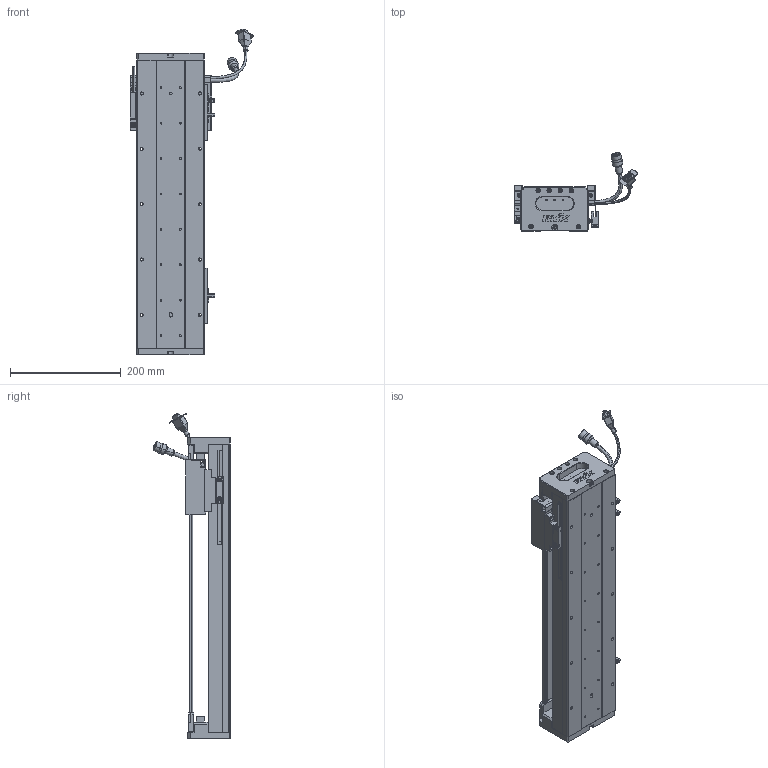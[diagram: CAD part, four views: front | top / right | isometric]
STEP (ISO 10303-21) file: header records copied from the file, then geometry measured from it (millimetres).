
FILE_DESCRIPTION (( 'STEP AP203' ), '1' );
FILE_NAME ('Z1-RY120D-1-L500-B-K.SLDASM_0350.step', '2021-05-17T03:44:40', ( '盈信电脑' ), ( '东莞市道滘镇水果街19号' ), 'SwSTEP 2.0', 'SolidWorks 2016', '' );
FILE_SCHEMA (( 'CONFIG_CONTROL_DESIGN' ));
Length unit declared in the file: millimetre
Products named in the file (37): 140蚥薯蝶輸; SCALE-Part-2; Z-RY120D詩湍奻揤裔; RY100FB-遵嫖萇覜茼え; HOLDER0; Z1-RY120-L500詩湍100mm遵_0350; Z1-RY120铝滑块（21款）; Z1-RY120-500-倰第菁釱_0350; SCREW-M1.7-1; HARNESS-Part-1; SEAL; SCALE-Part-1; Z-120詩湍傷裔啣; Z-RY120D詩湍狟揤裔; Z1-RY120D-1-L500-B-K.SLDASM_0350; 覜茼ん672; 672嫖萇羲壽假蚾釱; SCALE; 榋妏寠巭燃_暯_M2_2; 080黍杅芛假蚾釱21遴; SEAL-Part-1; SCREW-M1.6-1; 120-Z-臏賑輸盄裔(21遴); COVER; 140雄赽晤鎢ん堤盄; PSLH080_PSLF2; LABEL; COVER-Part-1; PBU_SHEET; SCREW-M1.6-3; SCREW-M1.6; SCREW-M1.7; LABEL-Part-1; HARNESS-Part-2; HARNESS; SCREW-M1.6-2; SHIELDPLATE
Assembly tree (43 placements, depth 4):
  Z1-RY120D-1-L500-B-K.SLDASM_0350
    Z1-RY120-500-倰第菁釱_0350
    覜茼ん672  x3
    672嫖萇羲壽假蚾釱  x2
    Z1-RY120铝滑块（21款）
    PSLH080_PSLF2
      SCALE
        SCALE-Part-1
        SCALE-Part-2
      HARNESS
        HARNESS-Part-1
        HARNESS-Part-2
      LABEL
        LABEL-Part-1
      COVER
        COVER-Part-1
      SEAL
        SEAL-Part-1
      榋妏寠巭燃_暯_M2_2
      SHIELDPLATE
      SCREW-M1.7
      SCREW-M1.7-1
      PBU_SHEET
      SCREW-M1.6
      SCREW-M1.6-1
      SCREW-M1.6-2
      SCREW-M1.6-3
      HOLDER0
    080黍杅芛假蚾釱21遴
    120-Z-臏賑輸盄裔(21遴)
    140雄赽晤鎢ん堤盄
    140蚥薯蝶輸  x2
    RY100FB-遵嫖萇覜茼え
    Z-120詩湍傷裔啣  x2
    Z-RY120D詩湍奻揤裔  x2
    Z-RY120D詩湍狟揤裔  x2
    Z1-RY120-L500詩湍100mm遵_0350
Bounding box: 222.88 x 140.94 x 589 mm (x, y, z)
Volume: 1745291.5 mm3; surface area: 597423.5 mm2
Topology: 38 solids, 38 shells, 2449 faces, 6462 edges, 4088 vertices
Faces by surface type: plane 1071, cylinder 1026, cone 230, torus 69, bspline 53
Entity records: 69503 total; most frequent: CARTESIAN_POINT 17224, DIRECTION 10108, ORIENTED_EDGE 9988, EDGE_CURVE 4994, AXIS2_PLACEMENT_3D 3654, VERTEX_POINT 3208, LINE 2800, VECTOR 2800
